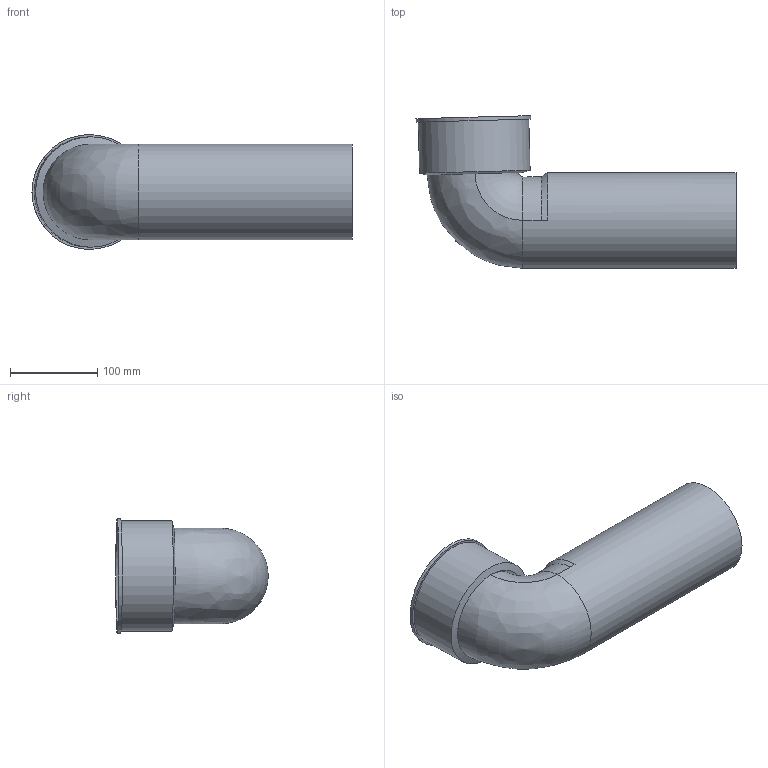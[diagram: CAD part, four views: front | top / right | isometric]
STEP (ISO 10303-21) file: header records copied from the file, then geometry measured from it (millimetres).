
FILE_DESCRIPTION(/* description */ (''),/* implementation_level */ '2;1');
FILE_NAME(/* name */ 'C:\Geberit-Teile\Export 2019\367.880.16.1\stp\367880.stp',/* time_stamp */ '2019-05-09T13:37:36+02:00',/* author */ ('JANAN'),/* organization */ (''),/* preprocessor_version */ 'ST-DEVELOPER v16.13',/* originating_system */ 'Autodesk Inventor 2018',/* authorisation */ '');
FILE_SCHEMA (('AUTOMOTIVE_DESIGN { 1 0 10303 214 3 1 1 }'));
Length unit declared in the file: millimetre
Products named in the file (1): AnBogen PE-HD 88.5G d110/di120 L30/12
Bounding box: 367.64 x 175.23 x 132 mm (x, y, z)
Volume: 589562 mm3; surface area: 279712 mm2
Topology: 1 solids, 1 shells, 22 faces, 51 edges, 30 vertices
Faces by surface type: cylinder 8, plane 5, bspline 3, torus 3, cone 3
Full cylindrical faces by diameter (mm): 101.4 x2, 110 x1, 118.4 x1, 127 x1, 132 x1
Entity records: 924 total; most frequent: CARTESIAN_POINT 393, DIRECTION 104, ORIENTED_EDGE 80, AXIS2_PLACEMENT_3D 48, EDGE_CURVE 40, EDGE_LOOP 34, CIRCLE 28, VERTEX_POINT 28
